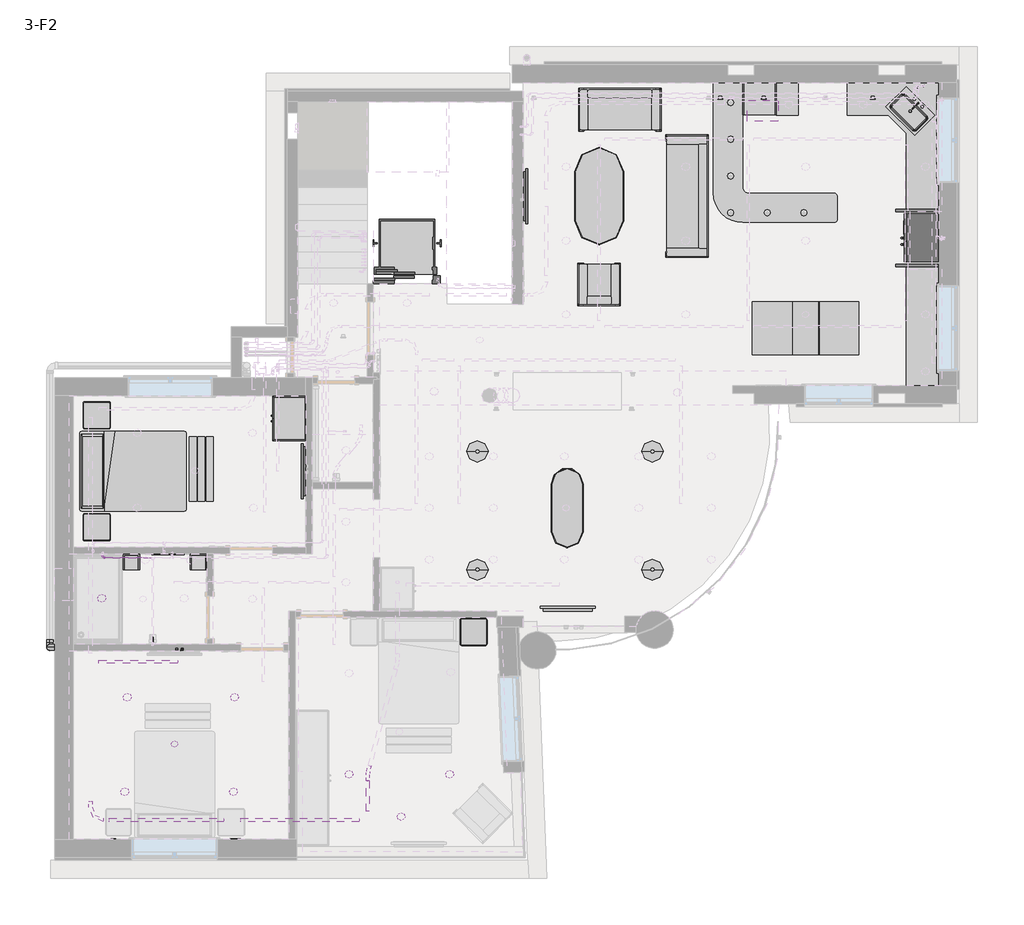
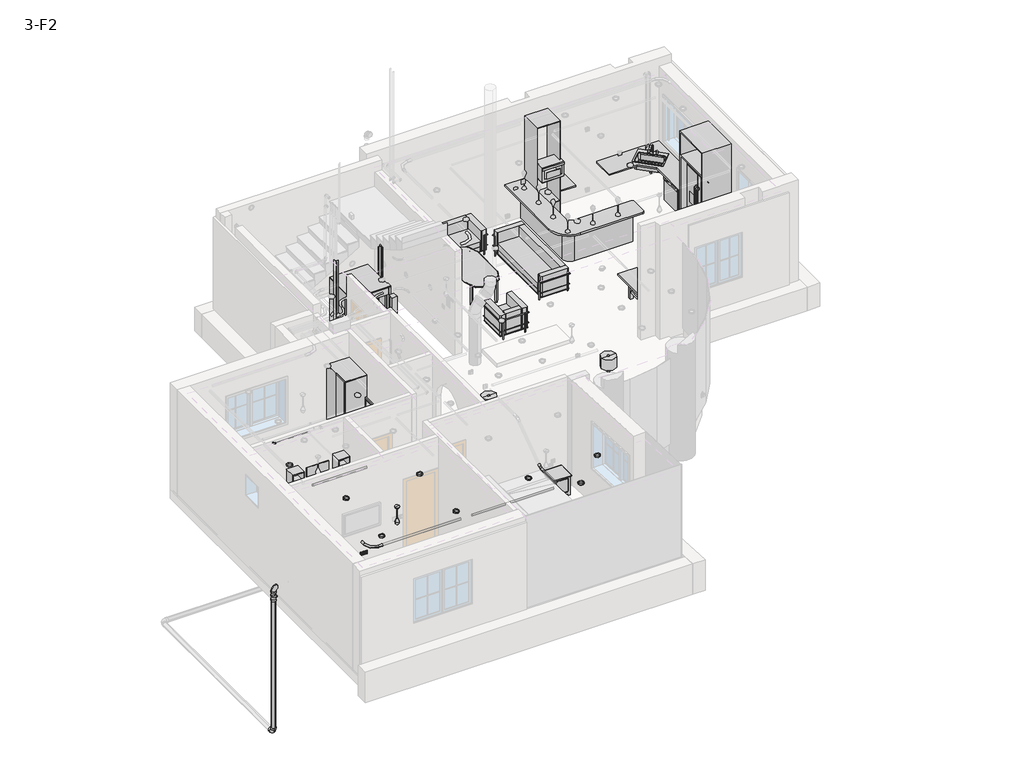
# One storey, part 5 of 12: 28 furniture elements, 11 pipe segments, 10 proxies, 9 light fixtures, 6 pipe fittings, 5 electric appliances, 4 cable carrier segments, 2 cable carrier fittings, 2 other elements.
"""IFC4 building model written with IfcOpenShell, lengths in millimetres."""

from ifc_helpers import new_model, si_unit, point, frame, frame_2d, origin, place, context, project, spatial, polyline, circle_curve, trimmed, segment, composite_curve, outline, extrude, transform, mapped, element, save
from components import specialty_equipment_6bfc070b, m_dishwasher_580_x_600_x_860mm_caf0502a, m_electric_lift_4_person_wall_based_type_1_27931067, microwave_m_760_x_400_x_450mm_7e184369, wall_mounted_socket_ups_wall_mounted_socket_ups_4524048d, m_conduit_elbow_aluminum_standard_a49322c3, m_conduit_elbow_aluminum_standard_cf803244, wall_mounted_data_socket_wall_mounted_data_socket_ap_474314e8, m_sink_kitchen_single_760_x_535mm_d14251e7, furniture_bfcdaa0c, furniture_a3832d90, furniture_623da044, furniture_91476ff9, furniture_86dd63d7, furniture_200mm_x_600m_94c9277c, bed_side_table_9129_bed_side_table_9129_9961343a, bed_side_table_9129_bed_side_table_9129_f863d0ea, bed_small_sizes_aus_single_3a526048, bench_locker_room_1220_x_457_x_356mm_af128f29, casework_1_casework_1_b2477b38, casework_2_casework_2_358c073b, casework_3_casework_3_17770feb, casework_4_casework_4_5319d1b7, counter_top_island_1220mm_depth_b2b52969, furniture_1_furniture_1_68b312d4, m_table_dining_oval_0915_x_1830mm_a7cfbe21, m_table_dining_oval_600x_1500mm_2_050df572, m_table_round_200_289049f1, m_table_round_200_b90cb30e, table_dining_w_chairs_2_table_w_6_seats_8ff34d8f, furniture_91679fb3, m_downlight_recessed_can_152mm_incandescent_120v_1ee42939, m_pendant_lamp_art_glass_led_standard_2036dae1, m_bend_pvc_sch_40_dwv_standard_1fb0f857, m_bend_pvc_sch_40_dwv_standard_738aab8b, m_bend_pvc_sch_40_dwv_standard_42e46e6b, m_tee_reducing_sanitary_pvc_sch_40_dwv_standard_ac374d09, m_tee_reducing_sanitary_pvc_sch_40_dwv_standard_152067bf, switching_device_8f59fbb7

model = new_model("IFC4")

# Units and contexts
model_context = context("Model", 3, world=origin())
ifc_project = project(units=[si_unit("LENGTHUNIT", "METRE", prefix="MILLI")], contexts=[model_context])

# Site, building, storey
site = spatial("IfcSite", under=ifc_project)
building = spatial("IfcBuilding", under=site)
storey = spatial("IfcBuildingStorey", under=building, Name="3-F2", Elevation=6550.0)

# Proxies
placement = place(None, origin())
specialty_equipment_shape = specialty_equipment_6bfc070b(model_context)
element("IfcBuildingElementProxy", 1, Name="Refrigeration-Dacor-Epicure-48_42_Built_In : EF48NBSSCH", ObjectType="Refrigeration-Dacor-Epicure-48_42_Built_In : EF48NBSSCH", at=placement, inside=storey, context=model_context, shape_type="MappedRepresentation", body=[
    mapped(specialty_equipment_shape, transform((6875.6609079, 5950.7214801, 6600.0), x_axis=(0.0, -1.0, 0.0), y_axis=(1.0, 0.0, 0.0), z_axis=(0.0, 0.0, 1.0))),
])
m_dishwasher_580_x_600_x_860mm_shape = m_dishwasher_580_x_600_x_860mm_caf0502a(model_context)
element("IfcBuildingElementProxy", 2, Name="M_Dishwasher : 580 x 600 x 860mm", ObjectType="M_Dishwasher : 580 x 600 x 860mm", at=placement, inside=storey, context=model_context, shape_type="MappedRepresentation", body=[
    mapped(m_dishwasher_580_x_600_x_860mm_shape, transform((6667.5238431, 6970.4183864, 6600.0), x_axis=(0.0, 1.0, 0.0), y_axis=(-1.0, 0.0, 0.0), z_axis=(0.0, 0.0, 1.0))),
])
m_electric_lift_4_person_wall_based_type_1_shape = m_electric_lift_4_person_wall_based_type_1_27931067(model_context)
element("IfcBuildingElementProxy", 3, Name="M_Electric Lift-4 person wall based : Type 1", ObjectType="M_Electric Lift-4 person wall based : Type 1", at=placement, inside=storey, context=model_context, shape_type="MappedRepresentation", body=[
    mapped(m_electric_lift_4_person_wall_based_type_1_shape, transform((-2932.4765921, 5159.4560655, 6550.0), x_axis=(1.0, 0.0, 0.0), y_axis=(0.0, 1.0, 0.0), z_axis=(0.0, 0.0, 1.0))),
])
microwave_m_760_x_400_x_450mm_shape = microwave_m_760_x_400_x_450mm_7e184369(model_context)
element("IfcBuildingElementProxy", 4, Name="Microwave (M) : 760 x 400 x 450mm", ObjectType="Microwave (M) : 760 x 400 x 450mm", at=placement, inside=storey, context=model_context, shape_type="MappedRepresentation", body=[
    mapped(microwave_m_760_x_400_x_450mm_shape, transform((4369.8162852, 8689.3425932, 7015.6), x_axis=(-1.0, 0.0, 0.0), y_axis=(0.0, -1.0, 0.0), z_axis=(0.0, 0.0, 1.0))),
])
wall_mounted_socket_ups_wall_mounted_socket_ups_shape = wall_mounted_socket_ups_wall_mounted_socket_ups_4524048d(model_context)
element("IfcBuildingElementProxy", 5, Name="WALL MOUNTED SOCKET : WALL MOUNTED SOCKET", ObjectType="WALL MOUNTED SOCKET : WALL MOUNTED SOCKET", at=placement, inside=storey, context=model_context, shape_type="MappedRepresentation", body=[
    mapped(wall_mounted_socket_ups_wall_mounted_socket_ups_shape, transform((-7029.7814219, -1799.8724951, 7000.0), x_axis=(1.0, 0.0, 0.0), y_axis=(0.0, 0.0, 1.0), z_axis=(0.0, -1.0, 0.0))),
])
element("IfcBuildingElementProxy", 6, Name="WALL MOUNTED SOCKET UPS : WALL MOUNTED SOCKET UPS", ObjectType="WALL MOUNTED SOCKET UPS : WALL MOUNTED SOCKET UPS", at=placement, inside=storey, context=model_context, shape_type="MappedRepresentation", body=[
    mapped(wall_mounted_socket_ups_wall_mounted_socket_ups_shape, transform((-5975.4457195, -5344.0873245, 7350.0), x_axis=(-1.0, 0.0, 0.0), y_axis=(0.0, 0.0, 1.0), z_axis=(0.0, 1.0, 0.0))),
])
element("IfcBuildingElementProxy", 7, Name="WALL MOUNTED SOCKET UPS : WALL MOUNTED SOCKET UPS", ObjectType="WALL MOUNTED SOCKET UPS : WALL MOUNTED SOCKET UPS", at=placement, inside=storey, context=model_context, shape_type="MappedRepresentation", body=[
    mapped(wall_mounted_socket_ups_wall_mounted_socket_ups_shape, transform((-7029.7814219, -1799.8724951, 7750.0), x_axis=(1.0, 0.0, 0.0), y_axis=(0.0, 0.0, 1.0), z_axis=(0.0, -1.0, 0.0))),
])
element("IfcBuildingElementProxy", 8, Name="WALL MOUNTED SOCKET UPS : WALL MOUNTED SOCKET UPS", ObjectType="WALL MOUNTED SOCKET UPS : WALL MOUNTED SOCKET UPS", at=placement, inside=storey, context=model_context, shape_type="MappedRepresentation", body=[
    mapped(wall_mounted_socket_ups_wall_mounted_socket_ups_shape, transform((-8325.704747, -5344.0873245, 7000.0), x_axis=(-1.0, 0.0, 0.0), y_axis=(0.0, 0.0, 1.0), z_axis=(0.0, 1.0, 0.0))),
])
element("IfcBuildingElementProxy", 9, Name="WALL MOUNTED SOCKET UPS : WALL MOUNTED SOCKET UPS", ObjectType="WALL MOUNTED SOCKET UPS : WALL MOUNTED SOCKET UPS", at=placement, inside=storey, context=model_context, shape_type="MappedRepresentation", body=[
    mapped(wall_mounted_socket_ups_wall_mounted_socket_ups_shape, transform((-2731.9457195, -5484.0873245, 6850.0), x_axis=(-1.0, 0.0, 0.0), y_axis=(0.0, 0.0, 1.0), z_axis=(0.0, 1.0, 0.0))),
])
element("IfcBuildingElementProxy", 10, Name="WALL MOUNTED SOCKET UPS : WALL MOUNTED SOCKET UPS", ObjectType="WALL MOUNTED SOCKET UPS : WALL MOUNTED SOCKET UPS", at=placement, inside=storey, context=model_context, shape_type="MappedRepresentation", body=[
    mapped(wall_mounted_socket_ups_wall_mounted_socket_ups_shape, transform((-2552.6151583, -5484.0873245, 6850.0), x_axis=(-1.0, 0.0, 0.0), y_axis=(0.0, 0.0, 1.0), z_axis=(0.0, 1.0, 0.0))),
])

# Cable carrier fittings
m_conduit_elbow_aluminum_standard_shape = m_conduit_elbow_aluminum_standard_a49322c3(model_context)
element("IfcCableCarrierFitting", 11, ObjectType="M_Conduit Elbow - Aluminum : Standard", at=placement, inside=storey, context=model_context, shape_type="MappedRepresentation", body=[
    mapped(m_conduit_elbow_aluminum_standard_shape, transform((-8749.7814219, -4979.5708614, 9619.8333815), x_axis=(0.0, -0.9999999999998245, -5.924682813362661e-07), y_axis=(1.0, 0.0, 0.0), z_axis=(0.0, -5.924682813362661e-07, 0.9999999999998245))),
])
m_conduit_elbow_aluminum_standard_2_shape = m_conduit_elbow_aluminum_standard_cf803244(model_context)
element("IfcCableCarrierFitting", 12, ObjectType="M_Conduit Elbow - Aluminum : Standard", at=placement, inside=storey, context=model_context, shape_type="MappedRepresentation", body=[
    mapped(m_conduit_elbow_aluminum_standard_2_shape, transform((-3545.4457195, -4099.0505506, 9619.8), x_axis=(-0.2588190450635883, -0.9659258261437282, -1.7347290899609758e-05), y_axis=(0.9659258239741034, -0.2588190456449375, 6.474097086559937e-05), z_axis=(-6.702478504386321e-05, 0.0, 0.9999999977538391))),
])

# Cable carrier segments
element("IfcCableCarrierSegment", 13, ObjectType="Power", at=placement, inside=storey, context=model_context, shape_type="SweptSolid", body=[
    extrude(outline(composite_curve([segment(trimmed(circle_curve(frame_2d((-4979.5708614, 9619.835)), 30.165), [point((-5009.7358614, 9619.835))], [point((-4979.5708614, 9650.0))], False, "CARTESIAN"), True, "CONTINUOUS"), segment(trimmed(circle_curve(frame_2d((-4979.5708614, 9619.835)), 30.165), [point((-4979.5708614, 9650.0))], [point((-4949.4058614, 9619.835))], False, "CARTESIAN"), True, "CONTINUOUS"), segment(trimmed(circle_curve(frame_2d((-4979.5708614, 9619.835)), 30.165), [point((-4949.4058614, 9619.835))], [point((-4979.5708614, 9589.67))], False, "CARTESIAN"), True, "CONTINUOUS"), segment(trimmed(circle_curve(frame_2d((-4979.5708614, 9619.835)), 30.165), [point((-4979.5708614, 9589.67))], [point((-5009.7358614, 9619.835))], False, "CARTESIAN"), True, "CONTINUOUS")], self_intersect=False)), frame((-5932.1184738, 0.0, 0.0), z_axis=(1.0, 0.0, 0.0), x_axis=(0.0, 1.0, 0.0)), (0.0, 0.0, 1.0), 2227.6727543),
])
element("IfcCableCarrierSegment", 14, ObjectType="Power", at=placement, inside=storey, context=model_context, shape_type="SweptSolid", body=[
    extrude(outline(composite_curve([segment(trimmed(circle_curve(frame_2d((-4979.5708614, 9619.835)), 30.165), [point((-5009.7358614, 9619.8362133))], [point((-4979.5696481, 9650.0))], False, "CARTESIAN"), True, "CONTINUOUS"), segment(trimmed(circle_curve(frame_2d((-4979.5708614, 9619.835)), 30.165), [point((-4979.5696481, 9650.0))], [point((-4949.4058614, 9619.8337867))], False, "CARTESIAN"), True, "CONTINUOUS"), segment(trimmed(circle_curve(frame_2d((-4979.5708614, 9619.835)), 30.165), [point((-4949.4058614, 9619.8337867))], [point((-4979.5720747, 9589.67))], False, "CARTESIAN"), True, "CONTINUOUS"), segment(trimmed(circle_curve(frame_2d((-4979.5708614, 9619.835)), 30.165), [point((-4979.5720747, 9589.67))], [point((-5009.7358614, 9619.8362133))], False, "CARTESIAN"), True, "CONTINUOUS")], self_intersect=False)), frame((-8394.1814219, 0.0, 0.0), z_axis=(1.0, 0.0, 0.0), x_axis=(0.0, 1.0, 0.0)), (0.0, 0.0, 1.0), 2144.0629481),
])
element("IfcCableCarrierSegment", 15, ObjectType="Power", at=placement, inside=storey, context=model_context, shape_type="SweptSolid", body=[
    extrude(outline(composite_curve([segment(trimmed(circle_curve(frame_2d((-2009.1020984, 9619.835)), 30.165), [point((-2039.2670984, 9619.8349827))], [point((-2009.1021157, 9650.0))], False, "CARTESIAN"), True, "CONTINUOUS"), segment(trimmed(circle_curve(frame_2d((-2009.1020984, 9619.835)), 30.165), [point((-2009.1021157, 9650.0))], [point((-1978.9370984, 9619.8350173))], False, "CARTESIAN"), True, "CONTINUOUS"), segment(trimmed(circle_curve(frame_2d((-2009.1020984, 9619.835)), 30.165), [point((-1978.9370984, 9619.8350173))], [point((-2009.1020811, 9589.67))], False, "CARTESIAN"), True, "CONTINUOUS"), segment(trimmed(circle_curve(frame_2d((-2009.1020984, 9619.835)), 30.165), [point((-2009.1020811, 9589.67))], [point((-2039.2670984, 9619.8349827))], False, "CARTESIAN"), True, "CONTINUOUS")], self_intersect=False)), frame((-8590.7814219, 0.0, 0.0), z_axis=(1.0, 0.0, 0.0), x_axis=(0.0, 1.0, 0.0)), (0.0, 0.0, 1.0), 1478.3083986),
])
element("IfcCableCarrierSegment", 16, ObjectType="Power", at=placement, inside=storey, context=model_context, shape_type="SweptSolid", body=[
    extrude(outline(composite_curve([segment(trimmed(circle_curve(frame_2d((9619.835, -3545.4457195)), 30.165), [point((9619.835, -3515.2807195))], [point((9650.0, -3545.4457195))], False, "CARTESIAN"), True, "CONTINUOUS"), segment(trimmed(circle_curve(frame_2d((9619.835, -3545.4457195)), 30.165), [point((9650.0, -3545.4457195))], [point((9619.835, -3575.6107195))], False, "CARTESIAN"), True, "CONTINUOUS"), segment(trimmed(circle_curve(frame_2d((9619.835, -3545.4457195)), 30.165), [point((9619.835, -3575.6107195))], [point((9589.67, -3545.4457195))], False, "CARTESIAN"), True, "CONTINUOUS"), segment(trimmed(circle_curve(frame_2d((9619.835, -3545.4457195)), 30.165), [point((9589.67, -3545.4457195))], [point((9619.835, -3515.2807195))], False, "CARTESIAN"), True, "CONTINUOUS")], self_intersect=False)), frame((0.0, -4820.5708614, 0.0), z_axis=(0.0, 1.0, 0.0), x_axis=(0.0, 0.0, 1.0)), (0.0, 0.0, 1.0), 575.452563),
])

# Electric appliances
wall_mounted_data_socket_wall_mounted_data_socket_ap_shape = wall_mounted_data_socket_wall_mounted_data_socket_ap_474314e8(model_context)
element("IfcElectricAppliance", 17, ObjectType="WALL MOUNTED DATA SOCKET : WALL MOUNTED DATA SOCKET AP", at=placement, inside=storey, context=model_context, shape_type="MappedRepresentation", body=[
    mapped(wall_mounted_data_socket_wall_mounted_data_socket_ap_shape, transform((-7129.7814219, -1799.8724951, 7750.0), x_axis=(1.0, 0.0, 0.0), y_axis=(0.0, 0.0, 1.0), z_axis=(0.0, -1.0, 0.0))),
])
element("IfcElectricAppliance", 18, ObjectType="WALL MOUNTED DATA SOCKET : WALL MOUNTED DATA SOCKET AP", at=placement, inside=storey, context=model_context, shape_type="MappedRepresentation", body=[
    mapped(wall_mounted_data_socket_wall_mounted_data_socket_ap_shape, transform((-7129.7814219, -1799.8724951, 7000.0), x_axis=(1.0, 0.0, 0.0), y_axis=(0.0, 0.0, 1.0), z_axis=(0.0, -1.0, 0.0))),
])
element("IfcElectricAppliance", 19, ObjectType="WALL MOUNTED DATA SOCKET : WALL MOUNTED DATA SOCKET AP", at=placement, inside=storey, context=model_context, shape_type="MappedRepresentation", body=[
    mapped(wall_mounted_data_socket_wall_mounted_data_socket_ap_shape, transform((-2522.6151583, -5484.0873245, 6850.0), x_axis=(-1.0, 0.0, 0.0), y_axis=(0.0, 0.0, 1.0), z_axis=(0.0, 1.0, 0.0))),
])
element("IfcElectricAppliance", 20, ObjectType="WALL MOUNTED DATA SOCKET : WALL MOUNTED DATA SOCKET AP", at=placement, inside=storey, context=model_context, shape_type="MappedRepresentation", body=[
    mapped(wall_mounted_data_socket_wall_mounted_data_socket_ap_shape, transform((-2420.4457195, -5484.0873245, 6850.0), x_axis=(-1.0, 0.0, 0.0), y_axis=(0.0, 0.0, 1.0), z_axis=(0.0, 1.0, 0.0))),
])
element("IfcElectricAppliance", 21, ObjectType="WALL MOUNTED DATA SOCKET : WALL MOUNTED DATA SOCKET AP", at=placement, inside=storey, context=model_context, shape_type="MappedRepresentation", body=[
    mapped(wall_mounted_data_socket_wall_mounted_data_socket_ap_shape, transform((-6089.7814219, -5344.0873245, 7250.0), x_axis=(-1.0, 0.0, 0.0), y_axis=(0.0, 0.0, 1.0), z_axis=(0.0, 1.0, 0.0))),
])

# Flow terminal
m_sink_kitchen_single_760_x_535mm_shape = m_sink_kitchen_single_760_x_535mm_d14251e7(model_context)
element("IfcFlowTerminal", 22, ObjectType="M_Sink Kitchen-Single : 760 x 535mm", at=placement, inside=storey, context=model_context, shape_type="MappedRepresentation", body=[
    mapped(m_sink_kitchen_single_760_x_535mm_shape, transform((6629.4958902, 8341.7040432, 6600.0), x_axis=(0.7071067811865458, -0.7071067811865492, 0.0), y_axis=(0.7071067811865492, 0.7071067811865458, 0.0), z_axis=(0.0, 0.0, 1.0))),
])

# Furniture
furniture_shape = furniture_bfcdaa0c(model_context)
element("IfcFurniture", 23, ObjectType="Couch_-_Le_Corbusier_Family_-_1_2_3_seater_9476 : 3 posti 2", at=placement, inside=storey, context=model_context, shape_type="MappedRepresentation", body=[
    mapped(furniture_shape, transform((2622.5234079, 6731.6620874, 6600.0), x_axis=(0.0, -1.0, 0.0), y_axis=(1.0, 0.0, 0.0), z_axis=(0.0, 0.0, 1.0))),
])
furniture_2_shape = furniture_a3832d90(model_context)
element("IfcFurniture", 24, ObjectType="Couch_-_Le_Corbusier_Family_-_1_2_3_seater_9476 : 1 posto", at=placement, inside=storey, context=model_context, shape_type="MappedRepresentation", body=[
    mapped(furniture_2_shape, transform((800.0, 4901.6620874, 6600.0), x_axis=(1.0, 0.0, 0.0), y_axis=(0.0, 1.0, 0.0), z_axis=(0.0, 0.0, 1.0))),
])
furniture_3_shape = furniture_623da044(model_context)
element("IfcFurniture", 25, ObjectType="Hamilton-Sorter_Modular-Casework_Storage-Cabinet_Open : Hamilton-Sorter_Modular-Casework_Storage-Cabinet_Open 2", at=placement, inside=storey, context=model_context, shape_type="MappedRepresentation", body=[
    mapped(furniture_3_shape, transform((-6724.7814219, 477.1275048, 7500.0), x_axis=(1.0, 0.0, 0.0), y_axis=(0.0, 1.0, 0.0), z_axis=(0.0, 0.0, 1.0))),
])
furniture_4_shape = furniture_91476ff9(model_context)
element("IfcFurniture", 26, ObjectType="Hamilton-Sorter_Modular-Casework_Storage-Cabinet_Open : Hamilton-Sorter_Modular-Casework_Storage-Cabinet_Open 2", at=placement, inside=storey, context=model_context, shape_type="MappedRepresentation", body=[
    mapped(furniture_4_shape, transform((-7985.0, 477.1275048, 7500.0), x_axis=(-1.0, 0.0, 0.0), y_axis=(0.0, -1.0, 0.0), z_axis=(0.0, 0.0, 1.0))),
])
furniture_5_shape = furniture_86dd63d7(model_context)
element("IfcFurniture", 27, ObjectType="Couch_-_Le_Corbusier_Family_-_1_2_3_seater_9476 : 2 posti", at=placement, inside=storey, context=model_context, shape_type="MappedRepresentation", body=[
    mapped(furniture_5_shape, transform((1189.5234079, 8529.1620874, 6600.0), x_axis=(1.0, 0.0, 0.0), y_axis=(0.0, 1.0, 0.0), z_axis=(0.0, 0.0, 1.0))),
])
furniture_200mm_x_600m_shape = furniture_200mm_x_600m_94c9277c(model_context)
element("IfcFurniture", 28, ObjectType="Armoire - 2 portes : 200mm x 600m", at=placement, inside=storey, context=model_context, shape_type="MappedRepresentation", body=[
    mapped(furniture_200mm_x_600m_shape, transform((-4982.4765921, 2659.0505942, 6550.0), x_axis=(0.0, -1.0, 0.0), y_axis=(1.0, 0.0, 0.0), z_axis=(0.0, 0.0, 1.0))),
])
bed_side_table_9129_bed_side_table_9129_shape = bed_side_table_9129_bed_side_table_9129_9961343a(model_context)
element("IfcFurniture", 29, ObjectType="BED_SIDE_TABLE_9129 : BED_SIDE_TABLE_9129", at=placement, inside=storey, context=model_context, shape_type="MappedRepresentation", body=[
    mapped(bed_side_table_9129_bed_side_table_9129_shape, transform((-1520.0057995, -1410.2773764, 6550.0), x_axis=(0.0, -1.0, 0.0), y_axis=(1.0, 0.0, 0.0), z_axis=(0.0, 0.0, 1.0))),
])
element("IfcFurniture", 30, ObjectType="BED_SIDE_TABLE_9129 : BED_SIDE_TABLE_9129", at=placement, inside=storey, context=model_context, shape_type="MappedRepresentation", body=[
    mapped(bed_side_table_9129_bed_side_table_9129_shape, transform((-8670.1003268, 474.4560655, 6600.0), x_axis=(0.0, 1.0, 0.0), y_axis=(-1.0, 0.0, 0.0), z_axis=(0.0, 0.0, 1.0))),
])
bed_side_table_9129_bed_side_table_9129_2_shape = bed_side_table_9129_bed_side_table_9129_f863d0ea(model_context)
element("IfcFurniture", 31, ObjectType="BED_SIDE_TABLE_9129 : BED_SIDE_TABLE_9129", at=placement, inside=storey, context=model_context, shape_type="MappedRepresentation", body=[
    mapped(bed_side_table_9129_bed_side_table_9129_2_shape, transform((-8670.1003268, 2660.1275048, 6600.0), x_axis=(0.0, -1.0, 0.0), y_axis=(1.0, 0.0, 0.0), z_axis=(0.0, 0.0, 1.0))),
])
bed_small_sizes_aus_single_shape = bed_small_sizes_aus_single_3a526048(model_context)
element("IfcFurniture", 32, ObjectType="Bed - Small Sizes (AUS) : Single", at=placement, inside=storey, context=model_context, shape_type="MappedRepresentation", body=[
    mapped(bed_small_sizes_aus_single_shape, transform((-8952.6295342, 1589.9657946, 6600.0), x_axis=(0.0, 1.0, 0.0), y_axis=(-1.0, 0.0, 0.0), z_axis=(0.0, 0.0, 1.0))),
])
bench_locker_room_1220_x_457_x_356mm_shape = bench_locker_room_1220_x_457_x_356mm_af128f29(model_context)
element("IfcFurniture", 33, ObjectType="Bench - Locker Room : 1220 x 457 x 356mm", at=placement, inside=storey, context=model_context, shape_type="MappedRepresentation", body=[
    mapped(bench_locker_room_1220_x_457_x_356mm_shape, transform((-6850.496176, 1765.4768415, 6600.0), x_axis=(0.0, 1.0, 0.0), y_axis=(-1.0, 0.0, 0.0), z_axis=(0.0, 0.0, 1.0))),
])
casework_1_casework_1_shape = casework_1_casework_1_b2477b38(model_context)
element("IfcFurniture", 34, ObjectType="Casework 1 : Casework 1", at=placement, inside=storey, context=model_context, shape_type="MappedRepresentation", body=[
    mapped(casework_1_casework_1_shape, transform((-63.0, 50.0, 0.0), x_axis=(1.0, 0.0, 0.0), y_axis=(0.0, 1.0, 0.0), z_axis=(0.0, 0.0, 1.0))),
])
casework_2_casework_2_shape = casework_2_casework_2_358c073b(model_context)
element("IfcFurniture", 35, ObjectType="Casework 2 : Casework 2", at=placement, inside=storey, context=model_context, shape_type="MappedRepresentation", body=[
    mapped(casework_2_casework_2_shape, transform((0.0, 0.0, 0.0), x_axis=(1.0, 0.0, 0.0), y_axis=(0.0, 1.0, 0.0), z_axis=(0.0, 0.0, 1.0))),
])
casework_3_casework_3_shape = casework_3_casework_3_17770feb(model_context)
element("IfcFurniture", 36, ObjectType="Casework 3 : Casework 3", at=placement, inside=storey, context=model_context, shape_type="MappedRepresentation", body=[
    mapped(casework_3_casework_3_shape, transform((-63.0, 100.0, 0.0), x_axis=(1.0, 0.0, 0.0), y_axis=(0.0, 1.0, 0.0), z_axis=(0.0, 0.0, 1.0))),
])
casework_4_casework_4_shape = casework_4_casework_4_5319d1b7(model_context)
element("IfcFurniture", 37, ObjectType="Casework 4 : Casework 4", at=placement, inside=storey, context=model_context, shape_type="MappedRepresentation", body=[
    mapped(casework_4_casework_4_shape, transform((0.0, 0.0, 0.0), x_axis=(1.0, 0.0, 0.0), y_axis=(0.0, 1.0, 0.0), z_axis=(0.0, 0.0, 1.0))),
])
element("IfcFurniture", 38, ObjectType="Counter Top - Island : 1220mm Depth", at=placement, inside=storey, context=model_context, shape_type="SweptSolid", body=[
    extrude(outline(polyline([(7172.5234079, 5407.9486583), (7172.5234079, 3170.7214801), (6566.1734079, 3170.7214801), (6566.1734079, 5407.9486583), (7172.5234079, 5407.9486583)])), frame((0.0, 0.0, 7460.0), z_axis=(0.0, 0.0, 1.0), x_axis=(1.0, 0.0, 0.0)), (0.0, 0.0, 1.0), 40.0),
])
counter_top_island_1220mm_depth_shape = counter_top_island_1220mm_depth_b2b52969(model_context)
element("IfcFurniture", 39, ObjectType="Counter Top - Island : 1220mm Depth", at=placement, inside=storey, context=model_context, shape_type="MappedRepresentation", body=[
    mapped(counter_top_island_1220mm_depth_shape, transform((5328.6509319, 8835.8620874, 6600.0), x_axis=(1.0, 0.0, 0.0), y_axis=(0.0, 1.0, 0.0), z_axis=(0.0, 0.0, 1.0))),
])
furniture_1_furniture_1_shape = furniture_1_furniture_1_68b312d4(model_context)
element("IfcFurniture", 40, ObjectType="Furniture 1 : Furniture 1", at=placement, inside=storey, context=model_context, shape_type="MappedRepresentation", body=[
    mapped(furniture_1_furniture_1_shape, transform((0.0, 0.0, 0.0), x_axis=(1.0, 0.0, 0.0), y_axis=(0.0, 1.0, 0.0), z_axis=(0.0, 0.0, 1.0))),
])
m_table_dining_oval_0915_x_1830mm_shape = m_table_dining_oval_0915_x_1830mm_a7cfbe21(model_context)
element("IfcFurniture", 41, ObjectType="M_Table-Dining Oval : 0915 x 1830mm", at=placement, inside=storey, context=model_context, shape_type="MappedRepresentation", body=[
    mapped(m_table_dining_oval_0915_x_1830mm_shape, transform((441.9016393, 7133.4817595, 6600.0), x_axis=(0.0, 1.0, 0.0), y_axis=(-1.0, 0.0, 0.0), z_axis=(0.0, 0.0, 1.0))),
])
m_table_dining_oval_600x_1500mm_2_shape = m_table_dining_oval_600x_1500mm_2_050df572(model_context)
element("IfcFurniture", 42, ObjectType="M_Table-Dining Oval : 600x 1500mm 2", at=placement, inside=storey, context=model_context, shape_type="MappedRepresentation", body=[
    mapped(m_table_dining_oval_600x_1500mm_2_shape, transform((-160.5749528, 1279.546877, 6600.0), x_axis=(0.0, 1.0, 0.0), y_axis=(-1.0, 0.0, 0.0), z_axis=(0.0, 0.0, 1.0))),
])
m_table_round_200_shape = m_table_round_200_289049f1(model_context)
element("IfcFurniture", 43, ObjectType="M_Table-Round : 200", at=placement, inside=storey, context=model_context, shape_type="MappedRepresentation", body=[
    mapped(m_table_round_200_shape, transform((1800.0, 1940.1275048, 6600.0), x_axis=(1.0, 0.0, 0.0), y_axis=(0.0, 1.0, 0.0), z_axis=(0.0, 0.0, 1.0))),
])
element("IfcFurniture", 44, ObjectType="M_Table-Round : 200", at=placement, inside=storey, context=model_context, shape_type="MappedRepresentation", body=[
    mapped(m_table_round_200_shape, transform((1800.0, -279.8724952, 6600.0), x_axis=(1.0, 0.0, 0.0), y_axis=(0.0, 1.0, 0.0), z_axis=(0.0, 0.0, 1.0))),
])
m_table_round_200_2_shape = m_table_round_200_b90cb30e(model_context)
element("IfcFurniture", 45, ObjectType="M_Table-Round : 200", at=placement, inside=storey, context=model_context, shape_type="MappedRepresentation", body=[
    mapped(m_table_round_200_2_shape, transform((-1485.00525, 1940.1275048, 6600.0), x_axis=(-1.0, 0.0, 0.0), y_axis=(0.0, -1.0, 0.0), z_axis=(0.0, 0.0, 1.0))),
])
element("IfcFurniture", 46, ObjectType="M_Table-Round : 200", at=placement, inside=storey, context=model_context, shape_type="MappedRepresentation", body=[
    mapped(m_table_round_200_2_shape, transform((-1485.00525, -279.8724952, 6600.0), x_axis=(-1.0, 0.0, 0.0), y_axis=(0.0, -1.0, 0.0), z_axis=(0.0, 0.0, 1.0))),
])
table_dining_w_chairs_2_table_w_6_seats_shape = table_dining_w_chairs_2_table_w_6_seats_8ff34d8f(model_context)
element("IfcFurniture", 47, ObjectType="Table - Dining w chairs (2) : Table w 6 Seats", at=placement, inside=storey, context=model_context, shape_type="MappedRepresentation", body=[
    mapped(table_dining_w_chairs_2_table_w_6_seats_shape, transform((4794.4611691, 4295.0761093, 6600.0), x_axis=(-1.0, 0.0, 0.0), y_axis=(0.0, -1.0, 0.0), z_axis=(0.0, 0.0, 1.0))),
])
furniture_6_shape = furniture_91679fb3(model_context)
element("IfcFurniture", 48, ObjectType="Television - Plasma : 42\"", at=placement, inside=storey, context=model_context, shape_type="MappedRepresentation", body=[
    mapped(furniture_6_shape, transform((-627.4765921, 6674.5120874, 7700.0), x_axis=(0.0, 1.0, 0.0), y_axis=(-1.0, 0.0, 0.0), z_axis=(0.0, 0.0, 1.0))),
])
element("IfcFurniture", 49, ObjectType="Television - Plasma : 42\"", at=placement, inside=storey, context=model_context, shape_type="MappedRepresentation", body=[
    mapped(furniture_6_shape, transform((267.3292937, -1057.1632352, 7050.0), x_axis=(-1.0, 0.0, 0.0), y_axis=(0.0, -1.0, 0.0), z_axis=(0.0, 0.0, 1.0))),
])
element("IfcFurniture", 50, ObjectType="Television - Plasma : 42\"", at=placement, inside=storey, context=model_context, shape_type="MappedRepresentation", body=[
    mapped(furniture_6_shape, transform((-4707.4765921, 1624.4417851, 7700.0), x_axis=(0.0, -1.0, 0.0), y_axis=(1.0, 0.0, 0.0), z_axis=(0.0, 0.0, 1.0))),
])

# Light fixtures
m_downlight_recessed_can_152mm_incandescent_120v_shape = m_downlight_recessed_can_152mm_incandescent_120v_1ee42939(model_context)
element("IfcLightFixture", 51, ObjectType="M_Downlight - Recessed Can : 203mm Incandescent - 277V", at=placement, inside=storey, context=model_context, shape_type="MappedRepresentation", body=[
    mapped(m_downlight_recessed_can_152mm_incandescent_120v_shape, transform((-8539.0013994, -817.1632352, 6935.4), x_axis=(1.0, 0.0, 0.0), y_axis=(0.0, 1.0, 0.0), z_axis=(0.0, 0.0, 1.0))),
])
element("IfcLightFixture", 52, ObjectType="M_Downlight - Recessed Can : 203mm Incandescent - 277V", at=placement, inside=storey, context=model_context, shape_type="MappedRepresentation", body=[
    mapped(m_downlight_recessed_can_152mm_incandescent_120v_shape, transform((-6045.5642266, -2676.9083614, 6935.4), x_axis=(1.0, 0.0, 0.0), y_axis=(0.0, 1.0, 0.0), z_axis=(0.0, 0.0, 1.0))),
])
element("IfcLightFixture", 53, ObjectType="M_Downlight - Recessed Can : 203mm Incandescent - 277V", at=placement, inside=storey, context=model_context, shape_type="MappedRepresentation", body=[
    mapped(m_downlight_recessed_can_152mm_incandescent_120v_shape, transform((-8059.0013994, -2676.9083614, 6935.4), x_axis=(1.0, 0.0, 0.0), y_axis=(0.0, 1.0, 0.0), z_axis=(0.0, 0.0, 1.0))),
])
element("IfcLightFixture", 54, ObjectType="M_Downlight - Recessed Can : 203mm Incandescent - 277V", at=placement, inside=storey, context=model_context, shape_type="MappedRepresentation", body=[
    mapped(m_downlight_recessed_can_152mm_incandescent_120v_shape, transform((-8107.4765921, -4449.0157761, 6935.4), x_axis=(1.0, 0.0, 0.0), y_axis=(0.0, 1.0, 0.0), z_axis=(0.0, 0.0, 1.0))),
])
element("IfcLightFixture", 55, ObjectType="M_Downlight - Recessed Can : 203mm Incandescent - 277V", at=placement, inside=storey, context=model_context, shape_type="MappedRepresentation", body=[
    mapped(m_downlight_recessed_can_152mm_incandescent_120v_shape, transform((-6065.5642266, -4449.0157761, 6935.4), x_axis=(1.0, 0.0, 0.0), y_axis=(0.0, 1.0, 0.0), z_axis=(0.0, 0.0, 1.0))),
])
element("IfcLightFixture", 56, ObjectType="M_Downlight - Recessed Can : 203mm Incandescent - 277V", at=placement, inside=storey, context=model_context, shape_type="MappedRepresentation", body=[
    mapped(m_downlight_recessed_can_152mm_incandescent_120v_shape, transform((-2007.6481198, -4122.293181, 6935.4), x_axis=(1.0, 0.0, 0.0), y_axis=(0.0, 1.0, 0.0), z_axis=(0.0, 0.0, 1.0))),
])
element("IfcLightFixture", 57, ObjectType="M_Downlight - Recessed Can : 203mm Incandescent - 277V", at=placement, inside=storey, context=model_context, shape_type="MappedRepresentation", body=[
    mapped(m_downlight_recessed_can_152mm_incandescent_120v_shape, transform((-3896.69683, -4122.293181, 6935.4), x_axis=(1.0, 0.0, 0.0), y_axis=(0.0, 1.0, 0.0), z_axis=(0.0, 0.0, 1.0))),
])
element("IfcLightFixture", 58, ObjectType="M_Downlight - Recessed Can : 203mm Incandescent - 277V", at=placement, inside=storey, context=model_context, shape_type="MappedRepresentation", body=[
    mapped(m_downlight_recessed_can_152mm_incandescent_120v_shape, transform((-2917.4929186, -4915.2368738, 6935.4), x_axis=(1.0, 0.0, 0.0), y_axis=(0.0, 1.0, 0.0), z_axis=(0.0, 0.0, 1.0))),
])
m_pendant_lamp_art_glass_led_standard_shape = m_pendant_lamp_art_glass_led_standard_2036dae1(model_context)
element("IfcLightFixture", 59, ObjectType="M_Pendant Lamp - Art Glass - LED : Standard", at=placement, inside=storey, context=model_context, shape_type="MappedRepresentation", body=[
    mapped(m_pendant_lamp_art_glass_led_standard_shape, transform((-7170.2055328, -3553.9442277, 9450.0), x_axis=(1.0, 0.0, 0.0), y_axis=(0.0, -1.0, 0.0), z_axis=(0.0, 0.0, -1.0))),
])

# Pipe fittings
m_bend_pvc_sch_40_dwv_standard_shape = m_bend_pvc_sch_40_dwv_standard_1fb0f857(model_context)
element("IfcPipeFitting", 60, ObjectType="M_Bend - PVC - Sch 40 - DWV : Standard", at=placement, inside=storey, context=model_context, shape_type="MappedRepresentation", body=[
    mapped(m_bend_pvc_sch_40_dwv_standard_shape, transform((-9511.6999979, -1739.8656791, 2621.4), x_axis=(0.0, 0.0, -1.0), y_axis=(0.0, 1.0, 0.0), z_axis=(1.0, 0.0, 0.0))),
])
element("IfcPipeFitting", 61, ObjectType="M_Bend - PVC - Sch 40 - DWV : Standard", at=placement, inside=storey, context=model_context, shape_type="MappedRepresentation", body=[
    mapped(m_bend_pvc_sch_40_dwv_standard_shape, transform((-9511.6999979, -1739.8656791, 6819.0), x_axis=(0.0, 0.0, 1.0), y_axis=(1.0, 0.0, 0.0), z_axis=(0.0, 1.0, 0.0))),
])
m_bend_pvc_sch_40_dwv_standard_2_shape = m_bend_pvc_sch_40_dwv_standard_738aab8b(model_context)
element("IfcPipeFitting", 62, ObjectType="M_Bend - PVC - Sch 40 - DWV : Standard", at=placement, inside=storey, context=model_context, shape_type="MappedRepresentation", body=[
    mapped(m_bend_pvc_sch_40_dwv_standard_2_shape, transform((-8855.0, -1739.8656791, 6537.5), x_axis=(1.0, 0.0, 0.0), y_axis=(0.0, 1.0, 0.0), z_axis=(0.0, 0.0, 1.0))),
])
m_bend_pvc_sch_40_dwv_standard_3_shape = m_bend_pvc_sch_40_dwv_standard_42e46e6b(model_context)
element("IfcPipeFitting", 63, ObjectType="M_Bend - PVC - Sch 40 - DWV : Standard", at=placement, inside=storey, context=model_context, shape_type="MappedRepresentation", body=[
    mapped(m_bend_pvc_sch_40_dwv_standard_3_shape, transform((-8524.8907109, -55.6316453, 9620.0), x_axis=(0.0, -1.0, 0.0), y_axis=(1.0, 0.0, 0.0), z_axis=(0.0, 0.0, 1.0))),
])
m_tee_reducing_sanitary_pvc_sch_40_dwv_standard_shape = m_tee_reducing_sanitary_pvc_sch_40_dwv_standard_ac374d09(model_context)
element("IfcPipeFitting", 64, ObjectType="M_Tee Reducing Sanitary - PVC - Sch 40 - DWV : Standard", at=placement, inside=storey, context=model_context, shape_type="MappedRepresentation", body=[
    mapped(m_tee_reducing_sanitary_pvc_sch_40_dwv_standard_shape, transform((-9511.6999979, -1739.8656791, 6537.5), x_axis=(0.0, 0.0, 1.0), y_axis=(-1.0, 0.0, 0.0), z_axis=(0.0, -1.0, 0.0))),
])
m_tee_reducing_sanitary_pvc_sch_40_dwv_standard_2_shape = m_tee_reducing_sanitary_pvc_sch_40_dwv_standard_152067bf(model_context)
element("IfcPipeFitting", 65, ObjectType="M_Tee Reducing Sanitary - PVC - Sch 40 - DWV : Standard", at=placement, inside=storey, context=model_context, shape_type="MappedRepresentation", body=[
    mapped(m_tee_reducing_sanitary_pvc_sch_40_dwv_standard_2_shape, transform((-9149.8907104, -1739.8656791, 6537.5), x_axis=(1.0, 0.0, 0.0), y_axis=(0.0, -0.9999999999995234, 9.764061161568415e-07), z_axis=(0.0, -9.764061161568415e-07, -0.9999999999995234))),
])

# Pipe segments
element("IfcPipeSegment", 66, ObjectType="PVC - DWV", at=placement, inside=storey, context=model_context, shape_type="SweptSolid", body=[
    extrude(outline(composite_curve([segment(trimmed(circle_curve(frame_2d((7000.0, -7580.0)), 10.668), [point((7000.0, -7569.332))], [point((7010.668, -7580.0))], False, "CARTESIAN"), True, "CONTINUOUS"), segment(trimmed(circle_curve(frame_2d((7000.0, -7580.0)), 10.668), [point((7010.668, -7580.0))], [point((7000.0, -7590.668))], False, "CARTESIAN"), True, "CONTINUOUS"), segment(trimmed(circle_curve(frame_2d((7000.0, -7580.0)), 10.668), [point((7000.0, -7590.668))], [point((6989.332, -7580.0))], False, "CARTESIAN"), True, "CONTINUOUS"), segment(trimmed(circle_curve(frame_2d((7000.0, -7580.0)), 10.668), [point((6989.332, -7580.0))], [point((7000.0, -7569.332))], False, "CARTESIAN"), True, "CONTINUOUS")], self_intersect=False)), frame((0.0, -1655.3303702, 0.0), z_axis=(0.0, 1.0, 0.0), x_axis=(0.0, 0.0, 1.0)), (0.0, 0.0, 1.0), 103.9859375),
])
element("IfcPipeSegment", 67, ObjectType="PVC - DWV", at=placement, inside=storey, context=model_context, shape_type="SweptSolid", body=[
    extrude(outline(composite_curve([segment(trimmed(circle_curve(frame_2d((-7580.0, -1696.3444327)), 10.668), [point((-7569.332, -1696.3444327))], [point((-7580.0, -1707.0124327))], False, "CARTESIAN"), True, "CONTINUOUS"), segment(trimmed(circle_curve(frame_2d((-7580.0, -1696.3444327)), 10.668), [point((-7580.0, -1707.0124327))], [point((-7590.668, -1696.3444327))], False, "CARTESIAN"), True, "CONTINUOUS"), segment(trimmed(circle_curve(frame_2d((-7580.0, -1696.3444327)), 10.668), [point((-7590.668, -1696.3444327))], [point((-7580.0, -1685.6764327))], False, "CARTESIAN"), True, "CONTINUOUS"), segment(trimmed(circle_curve(frame_2d((-7580.0, -1696.3444327)), 10.668), [point((-7580.0, -1685.6764327))], [point((-7569.332, -1696.3444327))], False, "CARTESIAN"), True, "CONTINUOUS")], self_intersect=False)), frame((0.0, 0.0, 7041.0140625), z_axis=(0.0, 0.0, 1.0), x_axis=(1.0, 0.0, 0.0)), (0.0, 0.0, 1.0), 2537.971875),
])
element("IfcPipeSegment", 68, ObjectType="PVC - DWV", at=placement, inside=storey, context=model_context, shape_type="SweptSolid", body=[
    extrude(outline(composite_curve([segment(trimmed(circle_curve(frame_2d((-55.6316453, 9620.0)), 10.668), [point((-44.9636453, 9620.0))], [point((-55.6316453, 9609.332))], False, "CARTESIAN"), True, "CONTINUOUS"), segment(trimmed(circle_curve(frame_2d((-55.6316453, 9620.0)), 10.668), [point((-55.6316453, 9609.332))], [point((-66.2996453, 9620.0))], False, "CARTESIAN"), True, "CONTINUOUS"), segment(trimmed(circle_curve(frame_2d((-55.6316453, 9620.0)), 10.668), [point((-66.2996453, 9620.0))], [point((-55.6316453, 9630.668))], False, "CARTESIAN"), True, "CONTINUOUS"), segment(trimmed(circle_curve(frame_2d((-55.6316453, 9620.0)), 10.668), [point((-55.6316453, 9630.668))], [point((-44.9636453, 9620.0))], False, "CARTESIAN"), True, "CONTINUOUS")], self_intersect=False)), frame((-8483.8766484, 0.0, 0.0), z_axis=(1.0, 0.0, 0.0), x_axis=(0.0, 1.0, 0.0)), (0.0, 0.0, 1.0), 882.3741109),
])
element("IfcPipeSegment", 69, ObjectType="PVC - DWV", at=placement, inside=storey, context=model_context, shape_type="SweptSolid", body=[
    extrude(outline(composite_curve([segment(trimmed(circle_curve(frame_2d((9620.0, -8524.8907109)), 10.668), [point((9620.0, -8514.2227109))], [point((9630.668, -8524.8907109))], False, "CARTESIAN"), True, "CONTINUOUS"), segment(trimmed(circle_curve(frame_2d((9620.0, -8524.8907109)), 10.668), [point((9630.668, -8524.8907109))], [point((9620.0, -8535.5587109))], False, "CARTESIAN"), True, "CONTINUOUS"), segment(trimmed(circle_curve(frame_2d((9620.0, -8524.8907109)), 10.668), [point((9620.0, -8535.5587109))], [point((9609.332, -8524.8907109))], False, "CARTESIAN"), True, "CONTINUOUS"), segment(trimmed(circle_curve(frame_2d((9620.0, -8524.8907109)), 10.668), [point((9609.332, -8524.8907109))], [point((9620.0, -8514.2227109))], False, "CARTESIAN"), True, "CONTINUOUS")], self_intersect=False)), frame((0.0, -14.6175828, 0.0), z_axis=(0.0, 1.0, 0.0), x_axis=(0.0, 0.0, 1.0)), (0.0, 0.0, 1.0), 8.7310252),
])
element("IfcPipeSegment", 70, ObjectType="PVC - DWV", at=placement, inside=storey, context=model_context, shape_type="SweptSolid", body=[
    extrude(outline(composite_curve([segment(trimmed(circle_curve(frame_2d((6537.5, -8855.0)), 24.13), [point((6537.5, -8879.13))], [point((6513.37, -8855.0))], False, "CARTESIAN"), True, "CONTINUOUS"), segment(trimmed(circle_curve(frame_2d((6537.5, -8855.0)), 24.13), [point((6513.37, -8855.0))], [point((6537.5, -8830.87))], False, "CARTESIAN"), True, "CONTINUOUS"), segment(trimmed(circle_curve(frame_2d((6537.5, -8855.0)), 24.13), [point((6537.5, -8830.87))], [point((6561.63, -8855.0))], False, "CARTESIAN"), True, "CONTINUOUS"), segment(trimmed(circle_curve(frame_2d((6537.5, -8855.0)), 24.13), [point((6561.63, -8855.0))], [point((6537.5, -8879.13))], False, "CARTESIAN"), True, "CONTINUOUS")], self_intersect=False)), frame((0.0, -1677.9658791, 0.0), z_axis=(0.0, 1.0, 0.0), x_axis=(0.0, 0.0, 1.0)), (0.0, 0.0, 1.0), 73.4611113),
])
element("IfcPipeSegment", 71, ObjectType="PVC - DWV", at=placement, inside=storey, context=model_context, shape_type="SweptSolid", body=[
    extrude(outline(composite_curve([segment(trimmed(circle_curve(frame_2d((-1739.8656791, 6819.0)), 57.15), [point((-1682.7156791, 6819.0))], [point((-1739.8656791, 6761.85))], False, "CARTESIAN"), True, "CONTINUOUS"), segment(trimmed(circle_curve(frame_2d((-1739.8656791, 6819.0)), 57.15), [point((-1739.8656791, 6761.85))], [point((-1797.0156791, 6819.0))], False, "CARTESIAN"), True, "CONTINUOUS"), segment(trimmed(circle_curve(frame_2d((-1739.8656791, 6819.0)), 57.15), [point((-1797.0156791, 6819.0))], [point((-1739.8656791, 6876.15))], False, "CARTESIAN"), True, "CONTINUOUS"), segment(trimmed(circle_curve(frame_2d((-1739.8656791, 6819.0)), 57.15), [point((-1739.8656791, 6876.15))], [point((-1682.7156791, 6819.0))], False, "CARTESIAN"), True, "CONTINUOUS")], self_intersect=False)), frame((-9368.8249979, 0.0, 0.0), z_axis=(1.0, 0.0, 0.0), x_axis=(0.0, 1.0, 0.0)), (0.0, 0.0, 1.0), 1645.9499979),
])
element("IfcPipeSegment", 72, ObjectType="PVC - DWV", at=placement, inside=storey, context=model_context, shape_type="SweptSolid", body=[
    extrude(outline(composite_curve([segment(trimmed(circle_curve(frame_2d((-9511.6999979, -1739.8656791)), 57.15), [point((-9454.5499979, -1739.8656791))], [point((-9511.6999979, -1797.0156791))], False, "CARTESIAN"), True, "CONTINUOUS"), segment(trimmed(circle_curve(frame_2d((-9511.6999979, -1739.8656791)), 57.15), [point((-9511.6999979, -1797.0156791))], [point((-9568.8499979, -1739.8656791))], False, "CARTESIAN"), True, "CONTINUOUS"), segment(trimmed(circle_curve(frame_2d((-9511.6999979, -1739.8656791)), 57.15), [point((-9568.8499979, -1739.8656791))], [point((-9511.6999979, -1682.7156791))], False, "CARTESIAN"), True, "CONTINUOUS"), segment(trimmed(circle_curve(frame_2d((-9511.6999979, -1739.8656791)), 57.15), [point((-9511.6999979, -1682.7156791))], [point((-9454.5499979, -1739.8656791))], False, "CARTESIAN"), True, "CONTINUOUS")], self_intersect=False)), frame((0.0, 0.0, 2764.275), z_axis=(0.0, 0.0, 1.0), x_axis=(1.0, 0.0, 0.0)), (0.0, 0.0, 1.0), 3676.3748),
])
element("IfcPipeSegment", 73, ObjectType="PVC - DWV", at=placement, inside=storey, context=model_context, shape_type="SweptSolid", body=[
    extrude(outline(composite_curve([segment(trimmed(circle_curve(frame_2d((-9511.6999979, -1739.8656791)), 57.15), [point((-9454.5499979, -1739.8656791))], [point((-9511.6999979, -1797.0156791))], False, "CARTESIAN"), True, "CONTINUOUS"), segment(trimmed(circle_curve(frame_2d((-9511.6999979, -1739.8656791)), 57.15), [point((-9511.6999979, -1797.0156791))], [point((-9568.8499979, -1739.8656791))], False, "CARTESIAN"), True, "CONTINUOUS"), segment(trimmed(circle_curve(frame_2d((-9511.6999979, -1739.8656791)), 57.15), [point((-9568.8499979, -1739.8656791))], [point((-9511.6999979, -1682.7156791))], False, "CARTESIAN"), True, "CONTINUOUS"), segment(trimmed(circle_curve(frame_2d((-9511.6999979, -1739.8656791)), 57.15), [point((-9511.6999979, -1682.7156791))], [point((-9454.5499979, -1739.8656791))], False, "CARTESIAN"), True, "CONTINUOUS")], self_intersect=False)), frame((0.0, 0.0, 6610.525), z_axis=(0.0, 0.0, 1.0), x_axis=(1.0, 0.0, 0.0)), (0.0, 0.0, 1.0), 65.6),
])
element("IfcPipeSegment", 74, ObjectType="PVC - DWV", at=placement, inside=storey, context=model_context, shape_type="SweptSolid", body=[
    extrude(outline(composite_curve([segment(trimmed(circle_curve(frame_2d((0.0, -24.13)), 24.13), [point((0.0, 0.0))], [point((24.13, -24.13))], False, "CARTESIAN"), True, "CONTINUOUS"), segment(trimmed(circle_curve(frame_2d((0.0, -24.13)), 24.13), [point((24.13, -24.13))], [point((0.0, -48.26))], False, "CARTESIAN"), True, "CONTINUOUS"), segment(trimmed(circle_curve(frame_2d((0.0, -24.13)), 24.13), [point((0.0, -48.26))], [point((-24.13, -24.13))], False, "CARTESIAN"), True, "CONTINUOUS"), segment(trimmed(circle_curve(frame_2d((0.0, -24.13)), 24.13), [point((-24.13, -24.13))], [point((0.0, 0.0))], False, "CARTESIAN"), True, "CONTINUOUS")], self_intersect=False)), frame((-9174.0207104, -1672.2682228, 6537.4985279), z_axis=(-1.0209377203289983e-12, 1.0, 0.0), x_axis=(0.0, 0.0, -1.0)), (0.0, 0.0, 1.0), 1690.4959189),
])
element("IfcPipeSegment", 75, ObjectType="PVC - DWV", at=placement, inside=storey, context=model_context, shape_type="SweptSolid", body=[
    extrude(outline(composite_curve([segment(trimmed(circle_curve(frame_2d((-1739.8656791, 6537.5)), 24.13), [point((-1715.7356791, 6537.5))], [point((-1739.8656791, 6513.37))], False, "CARTESIAN"), True, "CONTINUOUS"), segment(trimmed(circle_curve(frame_2d((-1739.8656791, 6537.5)), 24.13), [point((-1739.8656791, 6513.37))], [point((-1763.9956791, 6537.5))], False, "CARTESIAN"), True, "CONTINUOUS"), segment(trimmed(circle_curve(frame_2d((-1739.8656791, 6537.5)), 24.13), [point((-1763.9956791, 6537.5))], [point((-1739.8656791, 6561.63))], False, "CARTESIAN"), True, "CONTINUOUS"), segment(trimmed(circle_curve(frame_2d((-1739.8656791, 6537.5)), 24.13), [point((-1739.8656791, 6561.63))], [point((-1715.7356791, 6537.5))], False, "CARTESIAN"), True, "CONTINUOUS")], self_intersect=False)), frame((-9410.0999979, 0.0, 0.0), z_axis=(1.0, 0.0, 0.0), x_axis=(0.0, 1.0, 0.0)), (0.0, 0.0, 1.0), 194.2431813),
])
element("IfcPipeSegment", 76, ObjectType="PVC - DWV", at=placement, inside=storey, context=model_context, shape_type="SweptSolid", body=[
    extrude(outline(composite_curve([segment(trimmed(circle_curve(frame_2d((-1739.8656791, 6537.5)), 24.13), [point((-1715.7356791, 6537.5))], [point((-1739.8656791, 6513.37))], False, "CARTESIAN"), True, "CONTINUOUS"), segment(trimmed(circle_curve(frame_2d((-1739.8656791, 6537.5)), 24.13), [point((-1739.8656791, 6513.37))], [point((-1763.9956791, 6537.5))], False, "CARTESIAN"), True, "CONTINUOUS"), segment(trimmed(circle_curve(frame_2d((-1739.8656791, 6537.5)), 24.13), [point((-1763.9956791, 6537.5))], [point((-1739.8656791, 6561.63))], False, "CARTESIAN"), True, "CONTINUOUS"), segment(trimmed(circle_curve(frame_2d((-1739.8656791, 6537.5)), 24.13), [point((-1739.8656791, 6561.63))], [point((-1715.7356791, 6537.5))], False, "CARTESIAN"), True, "CONTINUOUS")], self_intersect=False)), frame((-9103.8351854, 0.0, 0.0), z_axis=(1.0, 0.0, 0.0), x_axis=(0.0, 1.0, 0.0)), (0.0, 0.0, 1.0), 186.9353854),
])

# Switching device
switching_device_shape = switching_device_8f59fbb7(model_context)
element("IfcSwitchingDevice", 77, ObjectType="TWO WAY ONE GANG LIGHTING SWICH : TWO WAY ONE GANG LIGHTING SWICH", at=placement, inside=storey, context=model_context, shape_type="MappedRepresentation", body=[
    mapped(switching_device_shape, transform((-6072.4765921, -5344.0873245, 7350.0), x_axis=(-1.0, 0.0, 0.0), y_axis=(0.0, 0.0, 1.0), z_axis=(0.0, 1.0, 0.0))),
])

save(model, "model.ifc")
